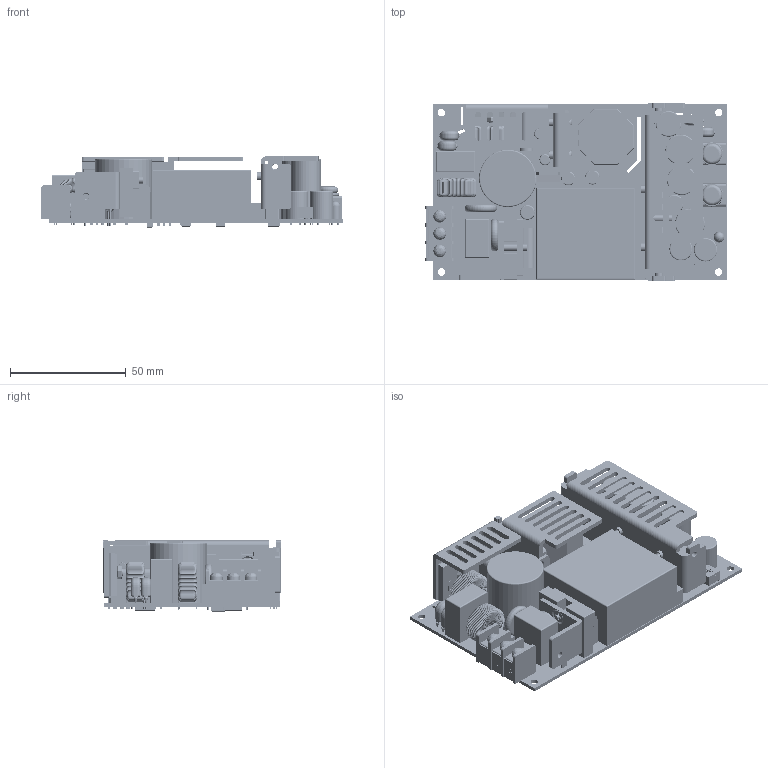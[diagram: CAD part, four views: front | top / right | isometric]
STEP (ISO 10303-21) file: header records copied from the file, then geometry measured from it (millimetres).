
FILE_DESCRIPTION(/* description */ (''),/* implementation_level */ '2;1');
FILE_NAME(/* name */ 'D:\Inventor\3D Files\200508\AQF120O-5S.stp',/* time_stamp */ '2020-04-23T16:16:26+08:00',/* author */ ('peter'),/* organization */ (''),/* preprocessor_version */ 'ST-DEVELOPER v15.2',/* originating_system */ 'Autodesk Inventor 2014',/* authorisation */ '');
FILE_SCHEMA (('AUTOMOTIVE_DESIGN { 1 0 10303 214 3 1 1 }'));
Products named in the file (35): PCB - 5S; X3 HEATSINK; INSULATOR TO-220; I HEATSINK; SCREW PH M3_12 mm; X2 HEATSINK; SCREW PH M3_10 mm; X1 HEATSINK; TO-220FP; TO-220FP_1; SCREW CH_W  M3_8mm; BD1; SCREW PH M3_8mm; M3; VR; INLET 9 mm; INLET 9 mm_1; INLET 9 mm_2; INLET - IN; LED; L1; L1_1; Y -- C; Y -- C_1; Y -- C_2; Y -- C_3; NTC1; RV1; PCB-50_M5; SCREW CH_W  M5_10mm; TO-220
Bounding box: 130.5 x 77 x 30.8 mm (x, y, z)
Volume: 130651.8 mm3; surface area: 77931.7 mm2
Topology: 43 solids, 217 shells, 7530 faces, 14786 edges, 7496 vertices
Faces by surface type: torus 2856, cylinder 2830, plane 1441, bspline 335, cone 51, sphere 17
Full cylindrical faces by diameter (mm): 0.45 x3, 0.5 x1, 0.6 x14, 0.8 x4, 1.6 x1, 1.85 x2, 2.459 x11, 3 x5, 3.1 x2, 3.2 x9, 3.5 x7, 3.85 x1, 4.134 x2, 4.7 x1, 4.73 x1, 4.799 x1, 5 x2, 5.5 x3, 5.8 x5, 6 x2, 6.046 x1, 6.306 x1, 6.389 x1, 7.879 x1, 9 x2, 9.97 x1, 10 x2, 10.131 x1, 11.096 x1, 12.742 x1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
Entity records: 208391 total; most frequent: CARTESIAN_POINT 52661, DIRECTION 34066, ORIENTED_EDGE 31078, AXIS2_PLACEMENT_3D 14898, EDGE_CURVE 14145, EDGE_LOOP 7722, ADVANCED_FACE 7356, FACE_OUTER_BOUND 7299
